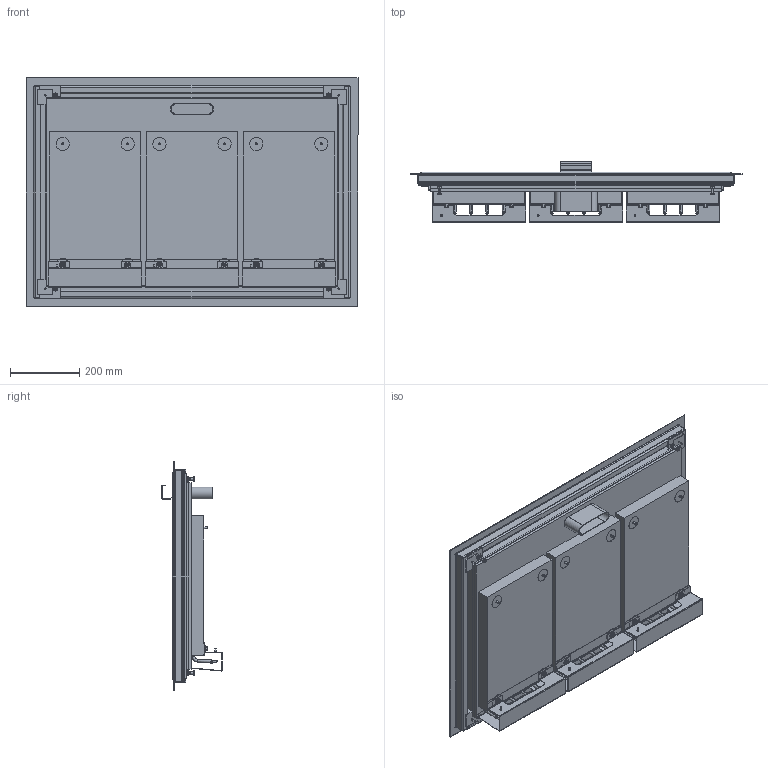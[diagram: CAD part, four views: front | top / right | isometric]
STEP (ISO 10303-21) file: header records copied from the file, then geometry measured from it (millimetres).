
FILE_DESCRIPTION (( 'STEP AP214' ), '1' );
FILE_NAME ('MS-G-90_311043.STEP', '2024-01-26T15:19:01', ( '' ), ( '' ), 'SwSTEP 2.0', 'SolidWorks 2023', '' );
FILE_SCHEMA (( 'AUTOMOTIVE_DESIGN' ));
Length unit declared in the file: millimetre
Products named in the file (1): MS-G-90_311043
Bounding box: 960 x 174.7 x 660 mm (x, y, z)
Volume: 20483470.9 mm3; surface area: 2587609.1 mm2
Topology: 1 solids, 4 shells, 2236 faces, 5726 edges, 3566 vertices
Faces by surface type: plane 1228, cylinder 474, cone 448, torus 70, bspline 16
Entity records: 70808 total; most frequent: CARTESIAN_POINT 17396, ORIENTED_EDGE 11452, DIRECTION 10734, EDGE_CURVE 5726, AXIS2_PLACEMENT_3D 3845, VERTEX_POINT 3566, LINE 3044, VECTOR 3044
